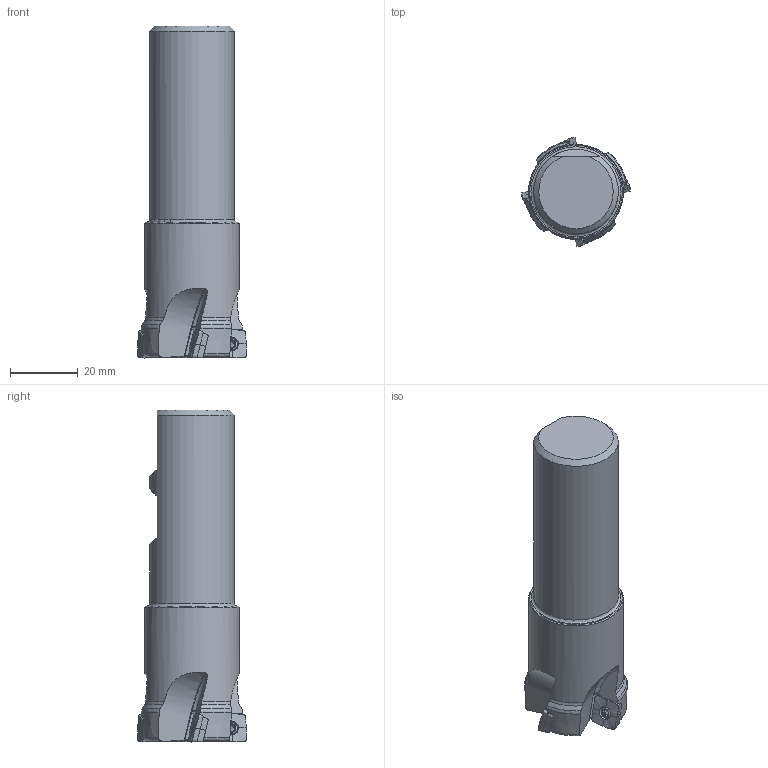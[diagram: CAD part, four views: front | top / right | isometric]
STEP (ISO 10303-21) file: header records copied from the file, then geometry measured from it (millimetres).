
FILE_DESCRIPTION(/* description */ (''),/* implementation_level */ '2;1');
FILE_NAME(/* name */ 'toolassembly_1.stp',/* time_stamp */ '2019-03-21T14:04:23+01:00',/* author */ (''),/* organization */ ('SMS'),/* preprocessor_version */ 'ST-DEVELOPER v15',/* originating_system */ 'SIEMENS PLM Software NX 8.5',/* authorisation */ '');
FILE_SCHEMA (('AUTOMOTIVE_DESIGN { 1 0 10303 214 3 1 1 1 }'));
Length unit declared in the file: millimetre
Products named in the file (4): CUT_20190321140323; NOCUT_20190321140312; ASSEMBLY_CONSTRUCTION; TOOLASSEMBLY_1
Assembly tree (6 placements, depth 2):
  TOOLASSEMBLY_1
    ASSEMBLY_CONSTRUCTION
    NOCUT_20190321140312
    CUT_20190321140323  x4
Bounding box: 32 x 32 x 98.01 mm (x, y, z)
Volume: 49694.8 mm3; surface area: 10619.3 mm2
Topology: 5 solids, 5 shells, 355 faces, 1000 edges, 667 vertices
Faces by surface type: plane 132, bspline 56, cone 51, extrusion 48, torus 38, cylinder 22, sphere 8
Full cylindrical faces by diameter (mm): 2.5 x4, 2.8 x4, 3.45 x4, 24.994 x1, 28 x1
Entity records: 22042 total; most frequent: CARTESIAN_POINT 15011, ORIENTED_EDGE 1480, DIRECTION 1314, EDGE_CURVE 740, AXIS2_PLACEMENT_3D 543, VERTEX_POINT 495, EDGE_LOOP 333, B_SPLINE_CURVE_WITH_KNOTS 301
